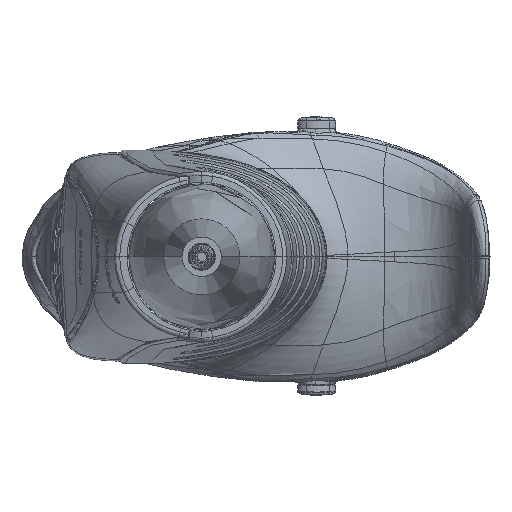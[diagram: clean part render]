
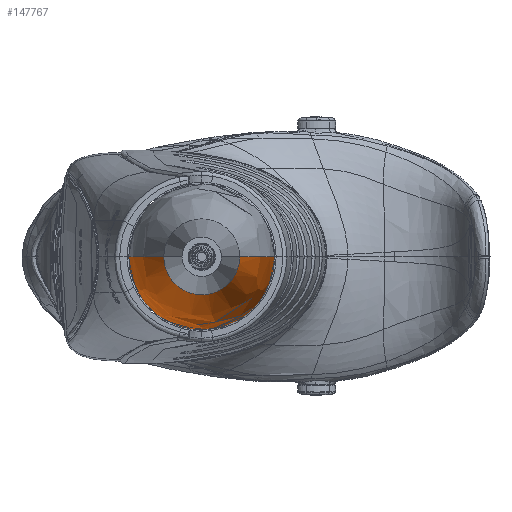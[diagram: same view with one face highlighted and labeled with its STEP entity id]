
A CAD part, left-side view. The second image highlights one B-rep face of the part: STEP entity #147767.
In plain terms, the highlighted face is a revolution surface.
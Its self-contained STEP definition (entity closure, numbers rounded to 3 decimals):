
#147566=CARTESIAN_POINT('',(-41.8,0.,0.));
#147567=DIRECTION('',(-1.,0.,0.));
#147568=DIRECTION('',(0.,1.,0.));
#147569=AXIS2_PLACEMENT_3D('',#147566,#147567,#147568);
#147581=CARTESIAN_POINT('',(-4.2,10.15,0.));
#147582=CARTESIAN_POINT('',(-5.799,10.15,0.));
#147583=CARTESIAN_POINT('',(-8.196,10.142,0.));
#147584=CARTESIAN_POINT('',(-11.388,10.106,0.));
#147585=CARTESIAN_POINT('',(-13.779,10.062,0.));
#147586=CARTESIAN_POINT('',(-16.166,9.994,0.));
#147587=CARTESIAN_POINT('',(-18.549,9.895,0.));
#147588=CARTESIAN_POINT('',(-20.925,9.754,0.));
#147589=CARTESIAN_POINT('',(-23.292,9.557,0.));
#147590=CARTESIAN_POINT('',(-25.648,9.289,0.));
#147591=CARTESIAN_POINT('',(-27.99,8.936,0.));
#147592=CARTESIAN_POINT('',(-30.318,8.492,0.));
#147593=CARTESIAN_POINT('',(-32.633,7.964,0.));
#147594=CARTESIAN_POINT('',(-34.936,7.365,0.));
#147595=CARTESIAN_POINT('',(-37.23,6.709,0.));
#147596=CARTESIAN_POINT('',(-39.518,6.011,0.));
#147597=CARTESIAN_POINT('',(-41.04,5.524,0.));
#147598=CARTESIAN_POINT('',(-41.8,5.277,0.));
#147600=CARTESIAN_POINT('',(-4.2,-10.15,0.));
#147601=CARTESIAN_POINT('',(-5.799,-10.15,0.));
#147602=CARTESIAN_POINT('',(-8.196,-10.142,0.));
#147603=CARTESIAN_POINT('',(-11.388,-10.106,0.));
#147604=CARTESIAN_POINT('',(-13.779,-10.062,0.));
#147605=CARTESIAN_POINT('',(-16.166,-9.994,0.));
#147606=CARTESIAN_POINT('',(-18.549,-9.895,0.));
#147607=CARTESIAN_POINT('',(-20.925,-9.754,0.));
#147608=CARTESIAN_POINT('',(-23.292,-9.557,0.));
#147609=CARTESIAN_POINT('',(-25.648,-9.289,0.));
#147610=CARTESIAN_POINT('',(-27.99,-8.936,0.));
#147611=CARTESIAN_POINT('',(-30.318,-8.492,0.));
#147612=CARTESIAN_POINT('',(-32.633,-7.964,0.));
#147613=CARTESIAN_POINT('',(-34.936,-7.365,0.));
#147614=CARTESIAN_POINT('',(-37.23,-6.709,0.));
#147615=CARTESIAN_POINT('',(-39.518,-6.011,0.));
#147616=CARTESIAN_POINT('',(-41.04,-5.524,0.));
#147617=CARTESIAN_POINT('',(-41.8,-5.277,0.));
#147619=CARTESIAN_POINT('',(-4.2,0.,0.));
#147620=DIRECTION('',(1.,0.,0.));
#147621=DIRECTION('',(0.,-1.,0.));
#147622=AXIS2_PLACEMENT_3D('',#147619,#147620,#147621);
#147624=CARTESIAN_POINT('',(-41.8,5.277,0.));
#147626=VERTEX_POINT('',#147624);
#147628=CARTESIAN_POINT('',(-41.8,-5.277,0.));
#147630=VERTEX_POINT('',#147628);
#147632=VERTEX_POINT('',#147581);
#147633=VERTEX_POINT('',#147600);
#147741=CARTESIAN_POINT('',(-4.2,10.15,0.));
#147742=CARTESIAN_POINT('',(-5.799,10.15,0.));
#147743=CARTESIAN_POINT('',(-8.995,10.14,0.));
#147744=CARTESIAN_POINT('',(-13.781,10.073,0.));
#147745=CARTESIAN_POINT('',(-18.552,9.915,0.));
#147746=CARTESIAN_POINT('',(-23.298,9.593,0.));
#147747=CARTESIAN_POINT('',(-27.997,8.982,0.));
#147748=CARTESIAN_POINT('',(-32.638,8.001,0.));
#147749=CARTESIAN_POINT('',(-37.234,6.729,0.));
#147750=CARTESIAN_POINT('',(-40.279,5.771,0.));
#147751=CARTESIAN_POINT('',(-41.8,5.277,0.));
#147756=CARTESIAN_POINT('',(-107.095,0.,0.));
#147757=DIRECTION('',(1.,0.,0.));
#147758=AXIS1_PLACEMENT('',#147756,#147757);
#147759=SURFACE_OF_REVOLUTION('',#147752,#147758);
#147760=ORIENTED_EDGE('',*,*,#147724,.T.);
#147761=ORIENTED_EDGE('',*,*,#147673,.T.);
#147762=ORIENTED_EDGE('',*,*,#147728,.F.);
#147764=ORIENTED_EDGE('',*,*,#147763,.T.);
#147765=EDGE_LOOP('',(#147760,#147761,#147762,#147764));
#147766=FACE_OUTER_BOUND('',#147765,.F.);
#147570=CIRCLE('',#147569,5.277);
#147599=B_SPLINE_CURVE_WITH_KNOTS('',3,(#147581,#147582,#147583,#147584,#147585,
#147586,#147587,#147588,#147589,#147590,#147591,#147592,#147593,#147594,#147595,
#147596,#147597,#147598),.UNSPECIFIED.,.F.,.F.,(4,1,1,1,1,1,1,1,1,1,1,1,1,1,1,
4),(0.,0.125,0.188,0.25,0.313,0.375,0.438,0.5,0.563,
0.625,0.688,0.75,0.813,0.875,0.938,1.),.UNSPECIFIED.);
#147618=B_SPLINE_CURVE_WITH_KNOTS('',3,(#147600,#147601,#147602,#147603,#147604,
#147605,#147606,#147607,#147608,#147609,#147610,#147611,#147612,#147613,#147614,
#147615,#147616,#147617),.UNSPECIFIED.,.F.,.F.,(4,1,1,1,1,1,1,1,1,1,1,1,1,1,1,
4),(0.,0.125,0.188,0.25,0.313,0.375,0.438,0.5,0.563,
0.625,0.688,0.75,0.813,0.875,0.938,1.),.UNSPECIFIED.);
#147623=CIRCLE('',#147622,10.15);
#147673=EDGE_CURVE('',#147626,#147630,#147570,.T.);
#147724=EDGE_CURVE('',#147632,#147626,#147599,.T.);
#147728=EDGE_CURVE('',#147633,#147630,#147618,.T.);
#147752=B_SPLINE_CURVE_WITH_KNOTS('',3,(#147741,#147742,#147743,#147744,#147745,
#147746,#147747,#147748,#147749,#147750,#147751),.UNSPECIFIED.,.F.,.F.,(4,1,1,1,
1,1,1,1,4),(0.,0.125,0.25,0.375,0.5,0.625,0.75,0.875,1.),
.UNSPECIFIED.);
#147763=EDGE_CURVE('',#147633,#147632,#147623,.T.);
#147767=ADVANCED_FACE('',(#147766),#147759,.F.);
